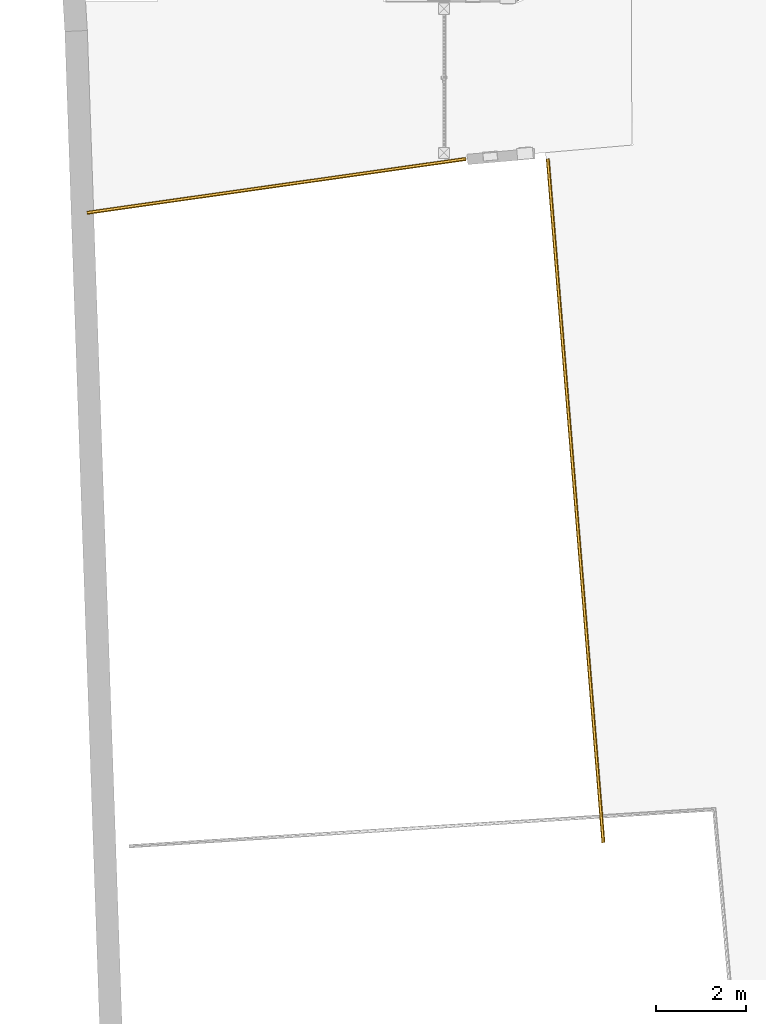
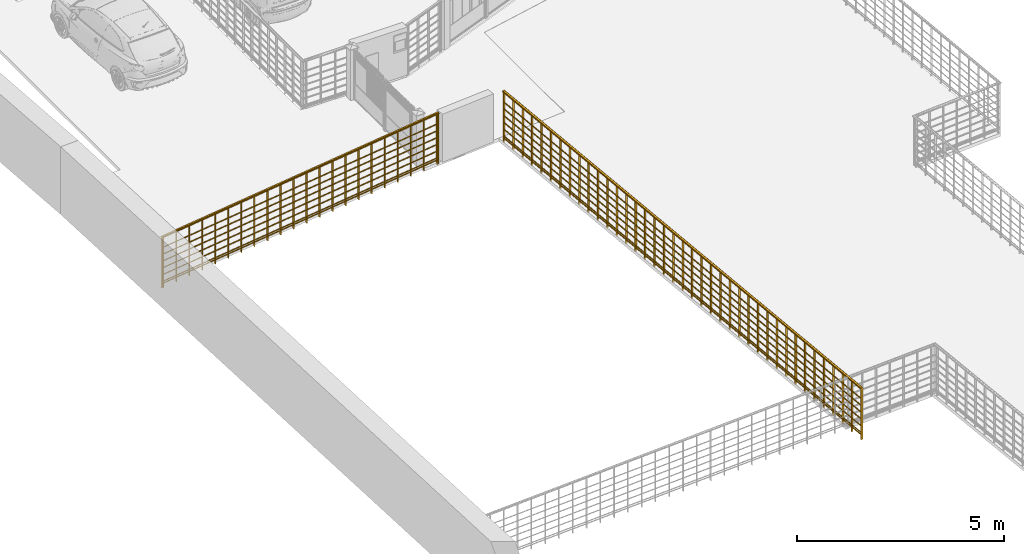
# One storey, part 25 of 33: 2 railings.
"""IFC2X3 building model written with IfcOpenShell, lengths in metres."""

from ifc_helpers import new_model, entity, si_unit, converted_unit, derived_unit, direction, frame, frame_2d, origin, origin_2d_with_axis, place, context, subcontext, project, spatial, polyline, rectangle, circle, outline, extrude, material, material_list, element, save


model = new_model("IFC2X3")

# Units and contexts
model_context = context("Model", 3, precision=1e-05, world=origin(), true_north=direction((6.12303176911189e-17, 1.0)))
context_of_model = context(None, 3, precision=1e-05, world=origin(), true_north=direction((6.12303176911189e-17, 1.0)))
body_context = subcontext(model_context, "Body", "Model", "MODEL_VIEW")
ifc_project = project(units=[si_unit("LENGTHUNIT", "METRE"), si_unit("AREAUNIT", "SQUARE_METRE"), si_unit("VOLUMEUNIT", "CUBIC_METRE"), converted_unit("PLANEANGLEUNIT", "DEGREE", entity("IfcRatioMeasure", 0.0174532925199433), si_unit("PLANEANGLEUNIT", "RADIAN"), dimensions=[0, 0, 0, 0, 0, 0, 0]), si_unit("MASSUNIT", "GRAM", prefix="KILO"), si_unit("TIMEUNIT", "SECOND"), si_unit("FREQUENCYUNIT", "HERTZ"), si_unit("THERMODYNAMICTEMPERATUREUNIT", "DEGREE_CELSIUS"), derived_unit("THERMALTRANSMITTANCEUNIT", [(si_unit("MASSUNIT", "GRAM", prefix="KILO"), 1), (si_unit("THERMODYNAMICTEMPERATUREUNIT", "KELVIN"), -1), (si_unit("TIMEUNIT", "SECOND"), -3)]), derived_unit("VOLUMETRICFLOWRATEUNIT", [(si_unit("LENGTHUNIT", "METRE"), 3), (si_unit("TIMEUNIT", "SECOND"), -1)]), si_unit("ELECTRICCURRENTUNIT", "AMPERE"), si_unit("ELECTRICVOLTAGEUNIT", "VOLT"), si_unit("POWERUNIT", "WATT"), si_unit("FORCEUNIT", "NEWTON", prefix="KILO"), si_unit("ILLUMINANCEUNIT", "LUX"), si_unit("LUMINOUSFLUXUNIT", "LUMEN"), si_unit("LUMINOUSINTENSITYUNIT", "CANDELA"), si_unit("PRESSUREUNIT", "PASCAL")], contexts=[model_context, context_of_model])

# Site, building, storey
site_placement = place(None, origin())
site = spatial("IfcSite", under=ifc_project, at=site_placement, Name="Surface", CompositionType="ELEMENT")
building_placement = place(site_placement, origin())
building = spatial("IfcBuilding", under=site, at=building_placement, CompositionType="ELEMENT")
storey_placement = place(building_placement, origin())
storey = spatial("IfcBuildingStorey", under=building, at=storey_placement, Name="Plan des fondations  Maisons 1 et 2", CompositionType="ELEMENT", Elevation=0.0)

# Railings
ifc_material_1 = material(Name="Bois")
ifc_material_2 = material(Name="Finition Peinture Grise")
ifc_material_list_1 = material_list([ifc_material_1, ifc_material_2])
railing_1_placement = place(building_placement, origin())
element("IfcRailing", 1, at=railing_1_placement, inside=storey, material=ifc_material_list_1, Name="Garde-corps:Type Bateau 1,50 m", ObjectType="Garde-corps:Type Bateau 1,50 m", PredefinedType="NOTDEFINED", context=body_context, shape_type="SweptSolid", body=[
    extrude(rectangle(XDim=0.0499999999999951, YDim=0.0140000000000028, at=frame_2d((-3.67761376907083e-15, 4.89755805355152e-15), x_axis=(1.0, 0.0))), frame((62.2926038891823, 64.7878063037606, -0.1), z_axis=(0.0, 0.0, 1.0), x_axis=(0.1408333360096, -0.990033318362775, 0.0)), (0.0, 0.0, 1.0), 1.46984653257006),
    extrude(rectangle(XDim=0.0499999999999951, YDim=0.0140000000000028, at=frame_2d((4.89538964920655e-15, 3.67848113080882e-15), x_axis=(1.0, 0.0))), frame((62.6886172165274, 64.8441396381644, -0.1), z_axis=(0.0, 0.0, 1.0), x_axis=(0.1408333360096, -0.990033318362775, 0.0)), (0.0, 0.0, 1.0), 1.46984653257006),
    extrude(rectangle(XDim=0.0499999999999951, YDim=0.0140000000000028, at=frame_2d((4.89538964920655e-15, 3.67848113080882e-15), x_axis=(1.0, 0.0))), frame((63.0846305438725, 64.9004729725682, -0.1), z_axis=(0.0, 0.0, 1.0), x_axis=(0.1408333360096, -0.990033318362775, 0.0)), (0.0, 0.0, 1.0), 1.46984653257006),
    extrude(rectangle(XDim=0.0499999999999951, YDim=0.0140000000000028, at=frame_2d((3.67761376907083e-15, -4.89755805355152e-15), x_axis=(1.0, 0.0))), frame((63.4806438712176, 64.956806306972, -0.1), z_axis=(0.0, 0.0, 1.0), x_axis=(0.1408333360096, -0.990033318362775, 0.0)), (0.0, 0.0, 1.0), 1.46984653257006),
    extrude(rectangle(XDim=0.0499999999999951, YDim=0.0140000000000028, at=frame_2d((4.89538964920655e-15, 3.67848113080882e-15), x_axis=(1.0, 0.0))), frame((63.8766571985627, 65.0131396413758, -0.1), z_axis=(0.0, 0.0, 1.0), x_axis=(0.1408333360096, -0.990033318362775, 0.0)), (0.0, 0.0, 1.0), 1.46984653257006),
    extrude(rectangle(XDim=0.0499999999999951, YDim=0.0140000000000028, at=frame_2d((4.89538964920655e-15, 3.67848113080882e-15), x_axis=(1.0, 0.0))), frame((64.2726705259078, 65.0694729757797, -0.1), z_axis=(0.0, 0.0, 1.0), x_axis=(0.1408333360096, -0.990033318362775, 0.0)), (0.0, 0.0, 1.0), 1.46984653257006),
    extrude(rectangle(XDim=0.0499999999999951, YDim=0.0140000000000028, at=frame_2d((4.89538964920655e-15, 3.67848113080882e-15), x_axis=(1.0, 0.0))), frame((64.6686838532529, 65.1258063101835, -0.1), z_axis=(0.0, 0.0, 1.0), x_axis=(0.1408333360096, -0.990033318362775, 0.0)), (0.0, 0.0, 1.0), 1.46984653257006),
    extrude(rectangle(XDim=0.0499999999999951, YDim=0.0140000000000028, at=frame_2d((-4.89538964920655e-15, -3.67848113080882e-15), x_axis=(1.0, 0.0))), frame((65.0646971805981, 65.1821396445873, -0.1), z_axis=(0.0, 0.0, 1.0), x_axis=(0.1408333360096, -0.990033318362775, 0.0)), (0.0, 0.0, 1.0), 1.46984653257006),
    extrude(rectangle(XDim=0.0499999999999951, YDim=0.0140000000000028, at=frame_2d((3.67761376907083e-15, -4.89755805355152e-15), x_axis=(1.0, 0.0))), frame((65.4607105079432, 65.2384729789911, -0.1), z_axis=(0.0, 0.0, 1.0), x_axis=(0.1408333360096, -0.990033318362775, 0.0)), (0.0, 0.0, 1.0), 1.46984653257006),
    extrude(rectangle(XDim=0.0499999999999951, YDim=0.0140000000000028, at=frame_2d((4.89538964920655e-15, 3.67848113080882e-15), x_axis=(1.0, 0.0))), frame((65.8567238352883, 65.2948063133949, -0.1), z_axis=(0.0, 0.0, 1.0), x_axis=(0.1408333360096, -0.990033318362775, 0.0)), (0.0, 0.0, 1.0), 1.46984653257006),
    extrude(rectangle(XDim=0.0499999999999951, YDim=0.0140000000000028, at=frame_2d((4.89538964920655e-15, 3.67848113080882e-15), x_axis=(1.0, 0.0))), frame((66.2527371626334, 65.3511396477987, -0.1), z_axis=(0.0, 0.0, 1.0), x_axis=(0.1408333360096, -0.990033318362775, 0.0)), (0.0, 0.0, 1.0), 1.46984653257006),
    extrude(rectangle(XDim=0.0499999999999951, YDim=0.0140000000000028, at=frame_2d((4.89538964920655e-15, 3.67848113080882e-15), x_axis=(1.0, 0.0))), frame((66.6487504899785, 65.4074729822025, -0.1), z_axis=(0.0, 0.0, 1.0), x_axis=(0.1408333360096, -0.990033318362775, 0.0)), (0.0, 0.0, 1.0), 1.46984653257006),
    extrude(rectangle(XDim=0.0499999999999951, YDim=0.0140000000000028, at=frame_2d((3.67761376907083e-15, -4.89755805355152e-15), x_axis=(1.0, 0.0))), frame((67.0447638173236, 65.4638063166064, -0.1), z_axis=(0.0, 0.0, 1.0), x_axis=(0.1408333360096, -0.990033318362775, 0.0)), (0.0, 0.0, 1.0), 1.46984653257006),
    extrude(rectangle(XDim=0.0499999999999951, YDim=0.0140000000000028, at=frame_2d((3.67761376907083e-15, -4.89755805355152e-15), x_axis=(1.0, 0.0))), frame((67.4407771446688, 65.5201396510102, -0.1), z_axis=(0.0, 0.0, 1.0), x_axis=(0.1408333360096, -0.990033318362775, 0.0)), (0.0, 0.0, 1.0), 1.46984653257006),
    extrude(rectangle(XDim=0.0499999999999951, YDim=0.0140000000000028, at=frame_2d((-3.67761376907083e-15, 4.89755805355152e-15), x_axis=(1.0, 0.0))), frame((67.8367904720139, 65.576472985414, -0.1), z_axis=(0.0, 0.0, 1.0), x_axis=(0.1408333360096, -0.990033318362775, 0.0)), (0.0, 0.0, 1.0), 1.46984653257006),
    extrude(rectangle(XDim=0.0499999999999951, YDim=0.0140000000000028, at=frame_2d((4.89538964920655e-15, 3.67848113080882e-15), x_axis=(1.0, 0.0))), frame((68.232803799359, 65.6328063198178, -0.1), z_axis=(0.0, 0.0, 1.0), x_axis=(0.1408333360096, -0.990033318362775, 0.0)), (0.0, 0.0, 1.0), 1.46984653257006),
    extrude(rectangle(XDim=0.0499999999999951, YDim=0.0140000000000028, at=frame_2d((3.67761376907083e-15, -4.89755805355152e-15), x_axis=(1.0, 0.0))), frame((68.6288171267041, 65.6891396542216, -0.1), z_axis=(0.0, 0.0, 1.0), x_axis=(0.1408333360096, -0.990033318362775, 0.0)), (0.0, 0.0, 1.0), 1.46984653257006),
    extrude(rectangle(XDim=0.0499999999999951, YDim=0.0140000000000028, at=frame_2d((3.67761376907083e-15, -4.89755805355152e-15), x_axis=(1.0, 0.0))), frame((69.0248304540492, 65.7454729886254, -0.1), z_axis=(0.0, 0.0, 1.0), x_axis=(0.1408333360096, -0.990033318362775, 0.0)), (0.0, 0.0, 1.0), 1.46984653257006),
    extrude(rectangle(XDim=0.0499999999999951, YDim=0.0140000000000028, at=frame_2d((3.67761376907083e-15, -4.89755805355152e-15), x_axis=(1.0, 0.0))), frame((69.4208437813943, 65.8018063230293, -0.1), z_axis=(0.0, 0.0, 1.0), x_axis=(0.1408333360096, -0.990033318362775, 0.0)), (0.0, 0.0, 1.0), 1.46984653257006),
    extrude(rectangle(XDim=0.0499999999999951, YDim=0.0140000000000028, at=frame_2d((4.89538964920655e-15, 3.67848113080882e-15), x_axis=(1.0, 0.0))), frame((69.8168571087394, 65.8581396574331, -0.1), z_axis=(0.0, 0.0, 1.0), x_axis=(0.1408333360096, -0.990033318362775, 0.0)), (0.0, 0.0, 1.0), 1.46984653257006),
    extrude(rectangle(XDim=0.0499999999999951, YDim=0.0140000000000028, at=frame_2d((4.89538964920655e-15, 3.67848113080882e-15), x_axis=(1.0, 0.0))), frame((70.2128704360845, 65.9144729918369, -0.1), z_axis=(0.0, 0.0, 1.0), x_axis=(0.1408333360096, -0.990033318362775, 0.0)), (0.0, 0.0, 1.0), 1.46984653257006),
    extrude(rectangle(XDim=0.0499999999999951, YDim=0.0140000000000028, at=frame_2d((3.67761376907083e-15, -4.89755805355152e-15), x_axis=(1.0, 0.0))), frame((70.6088837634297, 65.9708063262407, -0.1), z_axis=(0.0, 0.0, 1.0), x_axis=(0.1408333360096, -0.990033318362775, 0.0)), (0.0, 0.0, 1.0), 1.46984653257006),
    extrude(rectangle(XDim=0.0499999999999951, YDim=0.0140000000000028, at=frame_2d((3.67761376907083e-15, -4.89755805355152e-15), x_axis=(1.0, 0.0))), frame((62.2530025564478, 64.7821729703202, -0.1), z_axis=(0.0, 0.0, 1.0), x_axis=(0.1408333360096, -0.990033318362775, 0.0)), (0.0, 0.0, 1.0), 1.46984653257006),
    extrude(rectangle(XDim=0.0499999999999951, YDim=0.0140000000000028, at=frame_2d((4.89538964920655e-15, 3.67848113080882e-15), x_axis=(1.0, 0.0))), frame((70.6484850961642, 65.9764396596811, -0.1), z_axis=(0.0, 0.0, 1.0), x_axis=(0.1408333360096, -0.990033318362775, 0.0)), (0.0, 0.0, 1.0), 1.46984653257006),
    extrude(outline(polyline([(-0.0109067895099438, -0.0384843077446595), (0.00177588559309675, -0.0384843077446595), (0.0141514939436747, -0.0318300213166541), (0.0240801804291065, -0.0196720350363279), (0.0298451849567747, -0.00411257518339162), (0.0304496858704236, 0.0121579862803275), (0.0257891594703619, 0.0263263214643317), (0.016669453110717, 0.035942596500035), (0.0109067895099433, 0.0384843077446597), (-0.00177588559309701, 0.0384843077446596), (-0.0141514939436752, 0.0318300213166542), (-0.024080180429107, 0.019672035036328), (-0.0298451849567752, 0.00411257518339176), (-0.0304496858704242, -0.0121579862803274), (-0.0257891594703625, -0.0263263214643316), (-0.0166694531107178, -0.0359425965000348), (-0.0109067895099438, -0.0384843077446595)])), frame((62.2443398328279, 64.7804366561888, 1.4), z_axis=(0.990033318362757, 0.140833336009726, 0.0), x_axis=(-0.0384009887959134, 0.269952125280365, -0.962107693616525)), (0.0, 0.0, 1.0), 8.5),
    extrude(circle(Radius=0.015, at=origin_2d_with_axis()), frame((62.2443398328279, 64.7804366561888, 0.025), z_axis=(0.990033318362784, 0.140833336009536, 0.0), x_axis=(-0.140833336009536, 0.990033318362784, 0.0)), (0.0, 0.0, 1.0), 8.5),
    extrude(circle(Radius=0.015, at=origin_2d_with_axis()), frame((62.2443398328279, 64.7804366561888, 1.085), z_axis=(0.990033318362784, 0.140833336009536, 0.0), x_axis=(-0.140833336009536, 0.990033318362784, 0.0)), (0.0, 0.0, 1.0), 8.5),
    extrude(circle(Radius=0.015, at=origin_2d_with_axis()), frame((62.2443398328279, 64.7804366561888, 0.885), z_axis=(0.990033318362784, 0.140833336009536, 0.0), x_axis=(-0.140833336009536, 0.990033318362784, 0.0)), (0.0, 0.0, 1.0), 8.5),
    extrude(circle(Radius=0.015, at=origin_2d_with_axis()), frame((62.2443398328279, 64.7804366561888, 0.685), z_axis=(0.990033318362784, 0.140833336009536, 0.0), x_axis=(-0.140833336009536, 0.990033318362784, 0.0)), (0.0, 0.0, 1.0), 8.5),
    extrude(circle(Radius=0.015, at=origin_2d_with_axis()), frame((62.2443398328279, 64.7804366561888, 0.485), z_axis=(0.990033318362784, 0.140833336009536, 0.0), x_axis=(-0.140833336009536, 0.990033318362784, 0.0)), (0.0, 0.0, 1.0), 8.5),
    extrude(circle(Radius=0.015, at=origin_2d_with_axis()), frame((62.2443398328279, 64.7804366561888, 0.285), z_axis=(0.990033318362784, 0.140833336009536, 0.0), x_axis=(-0.140833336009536, 0.990033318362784, 0.0)), (0.0, 0.0, 1.0), 8.5),
    extrude(circle(Radius=0.015, at=origin_2d_with_axis()), frame((62.2443398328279, 64.7804366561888, 0.085), z_axis=(0.990033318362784, 0.140833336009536, 0.0), x_axis=(-0.140833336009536, 0.990033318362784, 0.0)), (0.0, 0.0, 1.0), 8.5),
])
ifc_material_list_2 = material_list([ifc_material_1, ifc_material_2])
railing_2_placement = place(building_placement, origin())
element("IfcRailing", 2, at=railing_2_placement, inside=storey, material=ifc_material_list_2, Name="Garde-corps:Type Bateau 1,50 m", ObjectType="Garde-corps:Type Bateau 1,50 m", PredefinedType="NOTDEFINED", context=body_context, shape_type="SweptSolid", body=[
    extrude(rectangle(XDim=0.0500000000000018, YDim=0.0139999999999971, at=frame_2d((3.50414142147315e-16, 4.31729305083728e-15), x_axis=(1.0, 0.0))), frame((73.7113185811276, 50.8112138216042, -0.1), z_axis=(0.0, 0.0, 1.0), x_axis=(0.996709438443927, 0.0810573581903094, 0.0)), (0.0, 0.0, 1.0), 1.46984653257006),
    extrude(rectangle(XDim=0.0500000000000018, YDim=0.0139999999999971, at=frame_2d((3.50414142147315e-16, 4.31729305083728e-15), x_axis=(1.0, 0.0))), frame((73.6788956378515, 51.2098975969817, -0.1), z_axis=(0.0, 0.0, 1.0), x_axis=(0.996709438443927, 0.0810573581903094, 0.0)), (0.0, 0.0, 1.0), 1.46984653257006),
    extrude(rectangle(XDim=0.0500000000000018, YDim=0.0139999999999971, at=frame_2d((-3.50414142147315e-16, -4.31729305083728e-15), x_axis=(1.0, 0.0))), frame((73.6464726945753, 51.6085813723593, -0.1), z_axis=(0.0, 0.0, 1.0), x_axis=(0.996709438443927, 0.0810573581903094, 0.0)), (0.0, 0.0, 1.0), 1.46984653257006),
    extrude(rectangle(XDim=0.0500000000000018, YDim=0.0139999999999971, at=frame_2d((-3.50414142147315e-16, -4.31729305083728e-15), x_axis=(1.0, 0.0))), frame((73.6140497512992, 52.0072651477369, -0.1), z_axis=(0.0, 0.0, 1.0), x_axis=(0.996709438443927, 0.0810573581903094, 0.0)), (0.0, 0.0, 1.0), 1.46984653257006),
    extrude(rectangle(XDim=0.0500000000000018, YDim=0.0139999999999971, at=frame_2d((3.50414142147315e-16, 4.31729305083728e-15), x_axis=(1.0, 0.0))), frame((73.5816268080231, 52.4059489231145, -0.1), z_axis=(0.0, 0.0, 1.0), x_axis=(0.996709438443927, 0.0810573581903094, 0.0)), (0.0, 0.0, 1.0), 1.46984653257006),
    extrude(rectangle(XDim=0.0500000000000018, YDim=0.0139999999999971, at=frame_2d((3.50414142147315e-16, 4.31729305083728e-15), x_axis=(1.0, 0.0))), frame((73.549203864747, 52.804632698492, -0.1), z_axis=(0.0, 0.0, 1.0), x_axis=(0.996709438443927, 0.0810573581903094, 0.0)), (0.0, 0.0, 1.0), 1.46984653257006),
    extrude(rectangle(XDim=0.0500000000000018, YDim=0.0139999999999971, at=frame_2d((-8.28156987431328e-15, 5.01942237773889e-15), x_axis=(1.0, 0.0))), frame((73.5167809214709, 53.2033164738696, -0.1), z_axis=(0.0, 0.0, 1.0), x_axis=(0.996709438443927, 0.0810573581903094, 0.0)), (0.0, 0.0, 1.0), 1.46984653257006),
    extrude(rectangle(XDim=0.0500000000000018, YDim=0.0139999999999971, at=frame_2d((-8.28156987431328e-15, 5.01942237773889e-15), x_axis=(1.0, 0.0))), frame((73.4843579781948, 53.6020002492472, -0.1), z_axis=(0.0, 0.0, 1.0), x_axis=(0.996709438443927, 0.0810573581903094, 0.0)), (0.0, 0.0, 1.0), 1.46984653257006),
    extrude(rectangle(XDim=0.0500000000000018, YDim=0.0139999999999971, at=frame_2d((3.50414142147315e-16, 4.31729305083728e-15), x_axis=(1.0, 0.0))), frame((73.4519350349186, 54.0006840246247, -0.1), z_axis=(0.0, 0.0, 1.0), x_axis=(0.996709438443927, 0.0810573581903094, 0.0)), (0.0, 0.0, 1.0), 1.46984653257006),
    extrude(rectangle(XDim=0.0500000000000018, YDim=0.0139999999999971, at=frame_2d((3.50414142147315e-16, 4.31729305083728e-15), x_axis=(1.0, 0.0))), frame((73.4195120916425, 54.3993678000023, -0.1), z_axis=(0.0, 0.0, 1.0), x_axis=(0.996709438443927, 0.0810573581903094, 0.0)), (0.0, 0.0, 1.0), 1.46984653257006),
    extrude(rectangle(XDim=0.0500000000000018, YDim=0.0139999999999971, at=frame_2d((3.50414142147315e-16, 4.31729305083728e-15), x_axis=(1.0, 0.0))), frame((73.3870891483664, 54.7980515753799, -0.1), z_axis=(0.0, 0.0, 1.0), x_axis=(0.996709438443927, 0.0810573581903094, 0.0)), (0.0, 0.0, 1.0), 1.46984653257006),
    extrude(rectangle(XDim=0.0500000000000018, YDim=0.0139999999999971, at=frame_2d((3.50414142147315e-16, 4.31729305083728e-15), x_axis=(1.0, 0.0))), frame((73.3546662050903, 55.1967353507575, -0.1), z_axis=(0.0, 0.0, 1.0), x_axis=(0.996709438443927, 0.0810573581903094, 0.0)), (0.0, 0.0, 1.0), 1.46984653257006),
    extrude(rectangle(XDim=0.0500000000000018, YDim=0.0139999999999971, at=frame_2d((3.50414142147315e-16, 4.31729305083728e-15), x_axis=(1.0, 0.0))), frame((73.3222432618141, 55.595419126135, -0.1), z_axis=(0.0, 0.0, 1.0), x_axis=(0.996709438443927, 0.0810573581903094, 0.0)), (0.0, 0.0, 1.0), 1.46984653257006),
    extrude(rectangle(XDim=0.0500000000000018, YDim=0.0139999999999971, at=frame_2d((-3.50414142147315e-16, -4.31729305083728e-15), x_axis=(1.0, 0.0))), frame((73.289820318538, 55.9941029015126, -0.1), z_axis=(0.0, 0.0, 1.0), x_axis=(0.996709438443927, 0.0810573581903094, 0.0)), (0.0, 0.0, 1.0), 1.46984653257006),
    extrude(rectangle(XDim=0.0500000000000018, YDim=0.0139999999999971, at=frame_2d((3.50414142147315e-16, 4.31729305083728e-15), x_axis=(1.0, 0.0))), frame((73.2573973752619, 56.3927866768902, -0.1), z_axis=(0.0, 0.0, 1.0), x_axis=(0.996709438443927, 0.0810573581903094, 0.0)), (0.0, 0.0, 1.0), 1.46984653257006),
    extrude(rectangle(XDim=0.0500000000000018, YDim=0.0139999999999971, at=frame_2d((3.50414142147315e-16, 4.31729305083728e-15), x_axis=(1.0, 0.0))), frame((73.2249744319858, 56.7914704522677, -0.1), z_axis=(0.0, 0.0, 1.0), x_axis=(0.996709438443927, 0.0810573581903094, 0.0)), (0.0, 0.0, 1.0), 1.46984653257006),
    extrude(rectangle(XDim=0.0500000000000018, YDim=0.0139999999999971, at=frame_2d((3.50414142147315e-16, 4.31729305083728e-15), x_axis=(1.0, 0.0))), frame((73.1925514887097, 57.1901542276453, -0.1), z_axis=(0.0, 0.0, 1.0), x_axis=(0.996709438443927, 0.0810573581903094, 0.0)), (0.0, 0.0, 1.0), 1.46984653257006),
    extrude(rectangle(XDim=0.0500000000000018, YDim=0.0139999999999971, at=frame_2d((3.50414142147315e-16, 4.31729305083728e-15), x_axis=(1.0, 0.0))), frame((73.1601285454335, 57.5888380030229, -0.1), z_axis=(0.0, 0.0, 1.0), x_axis=(0.996709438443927, 0.0810573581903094, 0.0)), (0.0, 0.0, 1.0), 1.46984653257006),
    extrude(rectangle(XDim=0.0500000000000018, YDim=0.0139999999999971, at=frame_2d((-3.50414142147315e-16, -4.31729305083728e-15), x_axis=(1.0, 0.0))), frame((73.1277056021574, 57.9875217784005, -0.1), z_axis=(0.0, 0.0, 1.0), x_axis=(0.996709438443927, 0.0810573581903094, 0.0)), (0.0, 0.0, 1.0), 1.46984653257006),
    extrude(rectangle(XDim=0.0500000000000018, YDim=0.0139999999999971, at=frame_2d((3.50414142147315e-16, 4.31729305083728e-15), x_axis=(1.0, 0.0))), frame((73.0952826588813, 58.386205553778, -0.1), z_axis=(0.0, 0.0, 1.0), x_axis=(0.996709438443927, 0.0810573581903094, 0.0)), (0.0, 0.0, 1.0), 1.46984653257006),
    extrude(rectangle(XDim=0.0500000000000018, YDim=0.0139999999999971, at=frame_2d((3.50414142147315e-16, 4.31729305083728e-15), x_axis=(1.0, 0.0))), frame((73.0628597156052, 58.7848893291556, -0.1), z_axis=(0.0, 0.0, 1.0), x_axis=(0.996709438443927, 0.0810573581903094, 0.0)), (0.0, 0.0, 1.0), 1.46984653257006),
    extrude(rectangle(XDim=0.0500000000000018, YDim=0.0139999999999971, at=frame_2d((-8.28156987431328e-15, 5.01942237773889e-15), x_axis=(1.0, 0.0))), frame((73.0304367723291, 59.1835731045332, -0.1), z_axis=(0.0, 0.0, 1.0), x_axis=(0.996709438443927, 0.0810573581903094, 0.0)), (0.0, 0.0, 1.0), 1.46984653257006),
    extrude(rectangle(XDim=0.0500000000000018, YDim=0.0139999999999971, at=frame_2d((-8.28156987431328e-15, 5.01942237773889e-15), x_axis=(1.0, 0.0))), frame((72.9980138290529, 59.5822568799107, -0.1), z_axis=(0.0, 0.0, 1.0), x_axis=(0.996709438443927, 0.0810573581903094, 0.0)), (0.0, 0.0, 1.0), 1.46984653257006),
    extrude(rectangle(XDim=0.0500000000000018, YDim=0.0139999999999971, at=frame_2d((-3.50414142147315e-16, -4.31729305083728e-15), x_axis=(1.0, 0.0))), frame((72.9655908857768, 59.9809406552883, -0.1), z_axis=(0.0, 0.0, 1.0), x_axis=(0.996709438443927, 0.0810573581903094, 0.0)), (0.0, 0.0, 1.0), 1.46984653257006),
    extrude(rectangle(XDim=0.0500000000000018, YDim=0.0139999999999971, at=frame_2d((3.50414142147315e-16, 4.31729305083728e-15), x_axis=(1.0, 0.0))), frame((72.9331679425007, 60.3796244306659, -0.1), z_axis=(0.0, 0.0, 1.0), x_axis=(0.996709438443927, 0.0810573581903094, 0.0)), (0.0, 0.0, 1.0), 1.46984653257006),
    extrude(rectangle(XDim=0.0500000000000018, YDim=0.0139999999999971, at=frame_2d((3.50414142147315e-16, 4.31729305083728e-15), x_axis=(1.0, 0.0))), frame((72.9007449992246, 60.7783082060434, -0.1), z_axis=(0.0, 0.0, 1.0), x_axis=(0.996709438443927, 0.0810573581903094, 0.0)), (0.0, 0.0, 1.0), 1.46984653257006),
    extrude(rectangle(XDim=0.0500000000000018, YDim=0.0139999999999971, at=frame_2d((3.50414142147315e-16, 4.31729305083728e-15), x_axis=(1.0, 0.0))), frame((72.8683220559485, 61.176991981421, -0.1), z_axis=(0.0, 0.0, 1.0), x_axis=(0.996709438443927, 0.0810573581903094, 0.0)), (0.0, 0.0, 1.0), 1.46984653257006),
    extrude(rectangle(XDim=0.0500000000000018, YDim=0.0139999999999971, at=frame_2d((3.50414142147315e-16, 4.31729305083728e-15), x_axis=(1.0, 0.0))), frame((72.8358991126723, 61.5756757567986, -0.1), z_axis=(0.0, 0.0, 1.0), x_axis=(0.996709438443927, 0.0810573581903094, 0.0)), (0.0, 0.0, 1.0), 1.46984653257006),
    extrude(rectangle(XDim=0.0500000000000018, YDim=0.0139999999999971, at=frame_2d((-3.50414142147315e-16, -4.31729305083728e-15), x_axis=(1.0, 0.0))), frame((72.8034761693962, 61.9743595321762, -0.1), z_axis=(0.0, 0.0, 1.0), x_axis=(0.996709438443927, 0.0810573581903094, 0.0)), (0.0, 0.0, 1.0), 1.46984653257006),
    extrude(rectangle(XDim=0.0500000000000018, YDim=0.0139999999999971, at=frame_2d((3.50414142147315e-16, 4.31729305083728e-15), x_axis=(1.0, 0.0))), frame((72.7710532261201, 62.3730433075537, -0.1), z_axis=(0.0, 0.0, 1.0), x_axis=(0.996709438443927, 0.0810573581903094, 0.0)), (0.0, 0.0, 1.0), 1.46984653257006),
    extrude(rectangle(XDim=0.0500000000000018, YDim=0.0139999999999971, at=frame_2d((3.50414142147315e-16, 4.31729305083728e-15), x_axis=(1.0, 0.0))), frame((72.738630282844, 62.7717270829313, -0.1), z_axis=(0.0, 0.0, 1.0), x_axis=(0.996709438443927, 0.0810573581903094, 0.0)), (0.0, 0.0, 1.0), 1.46984653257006),
    extrude(rectangle(XDim=0.0500000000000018, YDim=0.0139999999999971, at=frame_2d((-3.50414142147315e-16, -4.31729305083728e-15), x_axis=(1.0, 0.0))), frame((72.7062073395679, 63.1704108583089, -0.1), z_axis=(0.0, 0.0, 1.0), x_axis=(0.996709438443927, 0.0810573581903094, 0.0)), (0.0, 0.0, 1.0), 1.46984653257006),
    extrude(rectangle(XDim=0.0500000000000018, YDim=0.0139999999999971, at=frame_2d((3.50414142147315e-16, 4.31729305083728e-15), x_axis=(1.0, 0.0))), frame((72.6737843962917, 63.5690946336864, -0.1), z_axis=(0.0, 0.0, 1.0), x_axis=(0.996709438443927, 0.0810573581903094, 0.0)), (0.0, 0.0, 1.0), 1.46984653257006),
    extrude(rectangle(XDim=0.0500000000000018, YDim=0.0139999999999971, at=frame_2d((-3.50414142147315e-16, -4.31729305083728e-15), x_axis=(1.0, 0.0))), frame((72.6413614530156, 63.967778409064, -0.1), z_axis=(0.0, 0.0, 1.0), x_axis=(0.996709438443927, 0.0810573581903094, 0.0)), (0.0, 0.0, 1.0), 1.46984653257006),
    extrude(rectangle(XDim=0.0500000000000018, YDim=0.0139999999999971, at=frame_2d((3.50414142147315e-16, 4.31729305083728e-15), x_axis=(1.0, 0.0))), frame((72.6089385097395, 64.3664621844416, -0.1), z_axis=(0.0, 0.0, 1.0), x_axis=(0.996709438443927, 0.0810573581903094, 0.0)), (0.0, 0.0, 1.0), 1.46984653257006),
    extrude(rectangle(XDim=0.0500000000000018, YDim=0.0139999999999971, at=frame_2d((3.50414142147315e-16, 4.31729305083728e-15), x_axis=(1.0, 0.0))), frame((72.5765155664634, 64.7651459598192, -0.1), z_axis=(0.0, 0.0, 1.0), x_axis=(0.996709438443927, 0.0810573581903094, 0.0)), (0.0, 0.0, 1.0), 1.46984653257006),
    extrude(rectangle(XDim=0.0500000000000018, YDim=0.0139999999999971, at=frame_2d((-3.50414142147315e-16, -4.31729305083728e-15), x_axis=(1.0, 0.0))), frame((72.5440926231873, 65.1638297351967, -0.1), z_axis=(0.0, 0.0, 1.0), x_axis=(0.996709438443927, 0.0810573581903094, 0.0)), (0.0, 0.0, 1.0), 1.46984653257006),
    extrude(rectangle(XDim=0.0500000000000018, YDim=0.0139999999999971, at=frame_2d((-8.28156987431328e-15, 5.01942237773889e-15), x_axis=(1.0, 0.0))), frame((72.5116696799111, 65.5625135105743, -0.1), z_axis=(0.0, 0.0, 1.0), x_axis=(0.996709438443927, 0.0810573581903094, 0.0)), (0.0, 0.0, 1.0), 1.46984653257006),
    extrude(rectangle(XDim=0.0500000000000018, YDim=0.0139999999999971, at=frame_2d((-8.98413288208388e-15, -3.61473004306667e-15), x_axis=(1.0, 0.0))), frame((72.479246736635, 65.9611972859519, -0.1), z_axis=(0.0, 0.0, 1.0), x_axis=(0.996709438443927, 0.0810573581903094, 0.0)), (0.0, 0.0, 1.0), 1.46984653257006),
    extrude(rectangle(XDim=0.0500000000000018, YDim=0.0139999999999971, at=frame_2d((-8.28156987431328e-15, 5.01942237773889e-15), x_axis=(1.0, 0.0))), frame((73.7120393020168, 50.8023515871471, -0.1), z_axis=(0.0, 0.0, 1.0), x_axis=(0.996709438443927, 0.0810573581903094, 0.0)), (0.0, 0.0, 1.0), 1.46984653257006),
    extrude(rectangle(XDim=0.0500000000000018, YDim=0.0139999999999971, at=frame_2d((3.50414142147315e-16, 4.31729305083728e-15), x_axis=(1.0, 0.0))), frame((72.4785260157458, 65.9700595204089, -0.1), z_axis=(0.0, 0.0, 1.0), x_axis=(0.996709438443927, 0.0810573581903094, 0.0)), (0.0, 0.0, 1.0), 1.46984653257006),
    extrude(outline(polyline([(-0.0109067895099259, -0.038484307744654), (0.00177588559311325, -0.038484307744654), (0.0141514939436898, -0.0318300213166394), (0.0240801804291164, -0.0196720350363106), (0.02984518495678, -0.00411257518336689), (0.0304496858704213, 0.012157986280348), (0.0257891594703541, 0.0263263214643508), (0.0166694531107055, 0.0359425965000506), (0.0109067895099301, 0.0384843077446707), (-0.0017758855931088, 0.0384843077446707), (-0.0141514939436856, 0.0318300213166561), (-0.0240801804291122, 0.0196720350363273), (-0.0298451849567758, 0.00411257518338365), (-0.0304496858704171, -0.0121579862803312), (-0.0257891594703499, -0.026326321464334), (-0.0166694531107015, -0.0359425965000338), (-0.0109067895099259, -0.038484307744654)])), frame((73.7132516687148, 50.7936001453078, 1.4), z_axis=(-0.0810573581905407, 0.996709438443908, 0.0), x_axis=(-0.271772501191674, -0.0221018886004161, -0.962107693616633)), (0.0, 0.0, 1.0), 15.2377829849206),
    extrude(circle(Radius=0.015, at=origin_2d_with_axis()), frame((73.7132516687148, 50.7936001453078, 0.025), z_axis=(-0.0810573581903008, 0.996709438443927, 0.0), x_axis=(-0.996709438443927, -0.0810573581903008, 0.0)), (0.0, 0.0, 1.0), 15.2377829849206),
    extrude(circle(Radius=0.015, at=origin_2d_with_axis()), frame((73.7132516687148, 50.7936001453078, 1.085), z_axis=(-0.0810573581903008, 0.996709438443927, 0.0), x_axis=(-0.996709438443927, -0.0810573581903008, 0.0)), (0.0, 0.0, 1.0), 15.2377829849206),
    extrude(circle(Radius=0.015, at=origin_2d_with_axis()), frame((73.7132516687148, 50.7936001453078, 0.885), z_axis=(-0.0810573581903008, 0.996709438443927, 0.0), x_axis=(-0.996709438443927, -0.0810573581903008, 0.0)), (0.0, 0.0, 1.0), 15.2377829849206),
    extrude(circle(Radius=0.015, at=origin_2d_with_axis()), frame((73.7132516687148, 50.7936001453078, 0.685), z_axis=(-0.0810573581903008, 0.996709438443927, 0.0), x_axis=(-0.996709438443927, -0.0810573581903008, 0.0)), (0.0, 0.0, 1.0), 15.2377829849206),
    extrude(circle(Radius=0.015, at=origin_2d_with_axis()), frame((73.7132516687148, 50.7936001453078, 0.485), z_axis=(-0.0810573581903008, 0.996709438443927, 0.0), x_axis=(-0.996709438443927, -0.0810573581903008, 0.0)), (0.0, 0.0, 1.0), 15.2377829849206),
    extrude(circle(Radius=0.015, at=origin_2d_with_axis()), frame((73.7132516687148, 50.7936001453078, 0.285), z_axis=(-0.0810573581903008, 0.996709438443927, 0.0), x_axis=(-0.996709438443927, -0.0810573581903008, 0.0)), (0.0, 0.0, 1.0), 15.2377829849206),
    extrude(circle(Radius=0.015, at=origin_2d_with_axis()), frame((73.7132516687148, 50.7936001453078, 0.085), z_axis=(-0.0810573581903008, 0.996709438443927, 0.0), x_axis=(-0.996709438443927, -0.0810573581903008, 0.0)), (0.0, 0.0, 1.0), 15.2377829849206),
])

save(model, "model.ifc")
